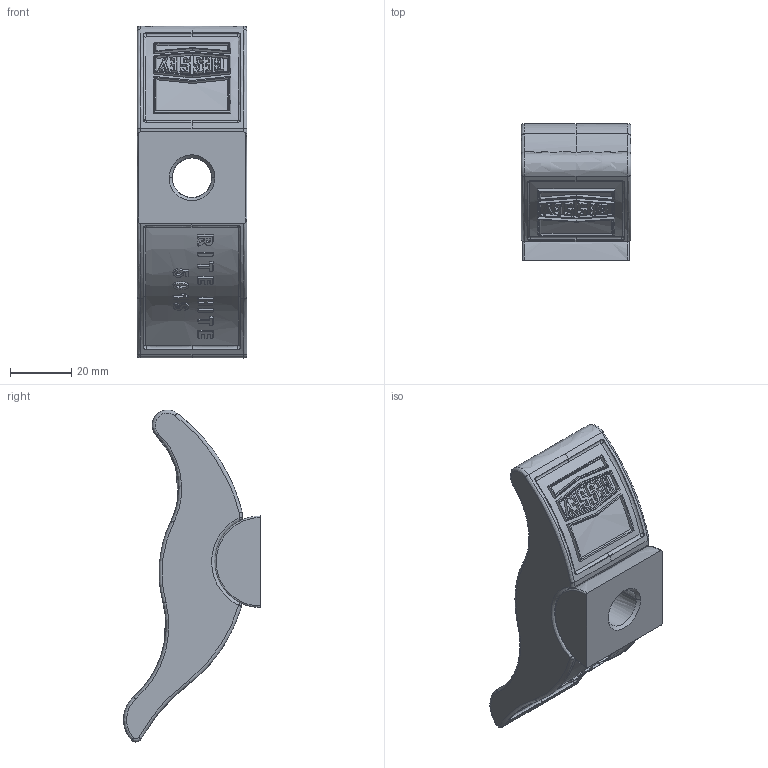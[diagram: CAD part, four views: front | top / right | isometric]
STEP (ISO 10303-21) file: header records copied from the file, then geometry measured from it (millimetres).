
FILE_DESCRIPTION( ( 'STEP AP214' ), '1' );
FILE_NAME( 'Z:/Klein/11_2012/Rite Hite_Drew/501S.stp', ' ', ( ' ' ), ( ' ' ), 'PSStep 11.0', ' ', ' ' );
FILE_SCHEMA( ( 'AUTOMOTIVE_DESIGN { 1 0 10303 214 1 1 1 1 }' ) );
Length unit declared in the file: metre
Products named in the file (2): 1; 2
Bounding box: 36 x 44.84 x 108.79 mm (x, y, z)
Volume: 10558.7 mm3; surface area: 18190.7 mm2
Topology: 1 solids, 648 shells, 673 faces, 3657 edges, 3632 vertices
Faces by surface type: bspline 673
Entity records: 56126 total; most frequent: CARTESIAN_POINT 33701, ORIENTED_EDGE 3718, EDGE_CURVE 3656, VERTEX_POINT 3632, B_SPLINE_CURVE_WITH_KNOTS 3359, EDGE_LOOP 704, FACE_BOUND 678, STYLED_ITEM 673
